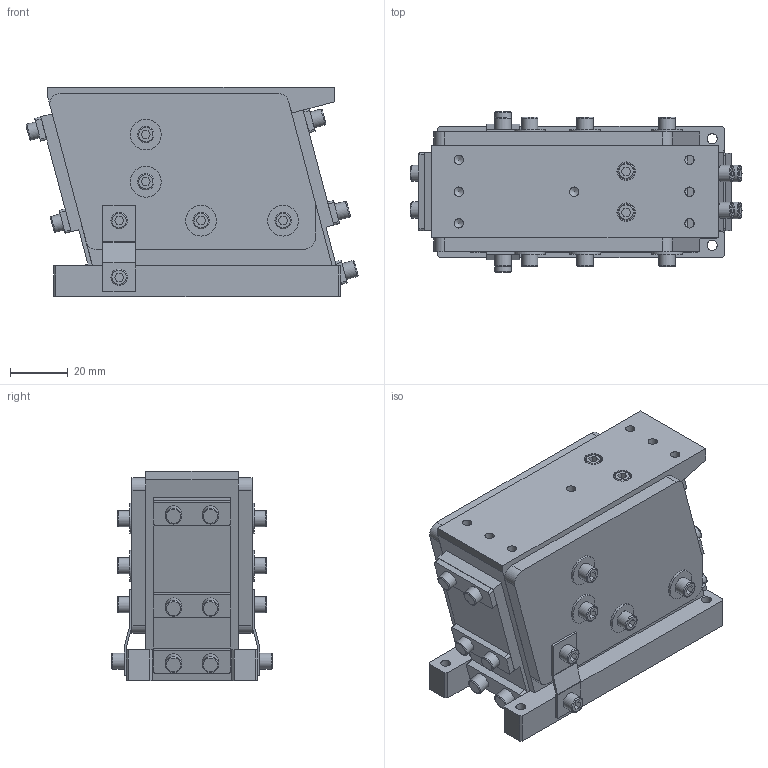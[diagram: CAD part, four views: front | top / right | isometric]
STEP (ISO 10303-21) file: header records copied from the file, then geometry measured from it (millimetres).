
FILE_DESCRIPTION( ( 'Unknown' ), '1' );
FILE_NAME( 'F:/PROJEKTY/02_HAK/Kontrola nakrętki/Dokumentacja pomocnicza/Podajnik liniowy WIB-L-200.stp', 'Unknown', ( 'Unknown' ), ( 'Unknown' ), 'PSStep 16.0.42', 'Unknown', ' ' );
FILE_SCHEMA( ( 'AUTOMOTIVE_DESIGN { 1 0 10303 214 1 1 1 1 }' ) );
Length unit declared in the file: millimetre
Products named in the file (6): 140直线震动体_MIR_MIR1
Bounding box: 115.12 x 55.58 x 72.5 mm (x, y, z)
Volume: 270266.9 mm3; surface area: 38331.4 mm2
Topology: 6 solids, 6 shells, 433 faces, 1088 edges, 710 vertices
Faces by surface type: plane 308, cylinder 92, torus 26, cone 7
Full cylindrical faces by diameter (mm): 3.242 x11, 3.495 x4, 5.686 x26, 6.397 x2, 10.662 x8
Entity records: 15826 total; most frequent: CARTESIAN_POINT 2221, DIRECTION 2072, ORIENTED_EDGE 1934, EDGE_CURVE 967, LINE 734, VECTOR 734, VERTEX_POINT 680, AXIS2_PLACEMENT_3D 669
